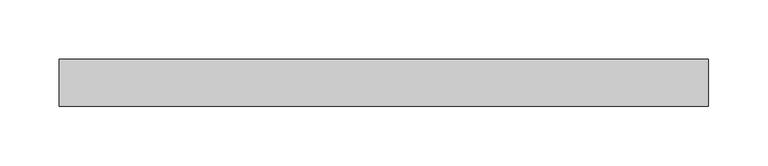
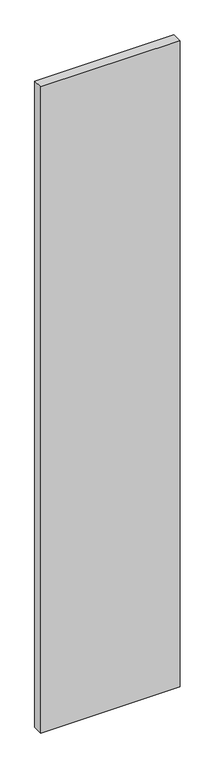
"""IFC4 building model written with IfcOpenShell, lengths in millimetres: plate geometry, Panneau système : Vitre 4cm."""

from ifc_helpers import new_model, si_unit, origin, origin_with_axes, place, context, project, spatial, polyline, outline, extrude, source, transform, mapped, element, save


def plate_bfa09180(model_context):
    return source(origin(), model_context, "Body", "SweptSolid", [
        extrude(outline(polyline([(275.0, -20.0), (-275.0, -20.0), (-275.0, 20.0), (275.0, 20.0), (275.0, -20.0)])), origin_with_axes(), (0.0, 0.0, 1.0), 2695.0),
    ])


if __name__ == "__main__":
    model = new_model("IFC4")
    model_context = context("Model", 3, world=origin())
    ifc_project = project(units=[si_unit("LENGTHUNIT", "METRE", prefix="MILLI")], contexts=[model_context])
    site = spatial("IfcSite", under=ifc_project)
    building = spatial("IfcBuilding", under=site)
    placement = place(None, origin())
    plate_shape = plate_bfa09180(model_context)
    element("IfcPlate", 1, ObjectType="Panneau système : Vitre 4cm", at=placement, inside=building, context=model_context, shape_type="MappedRepresentation", body=[
        mapped(plate_shape, transform((0.0, 0.0, 0.0), x_axis=(1.0, 0.0, 0.0), y_axis=(0.0, 1.0, 0.0), z_axis=(0.0, 0.0, 1.0))),
    ])
    save(model, "model.ifc")
